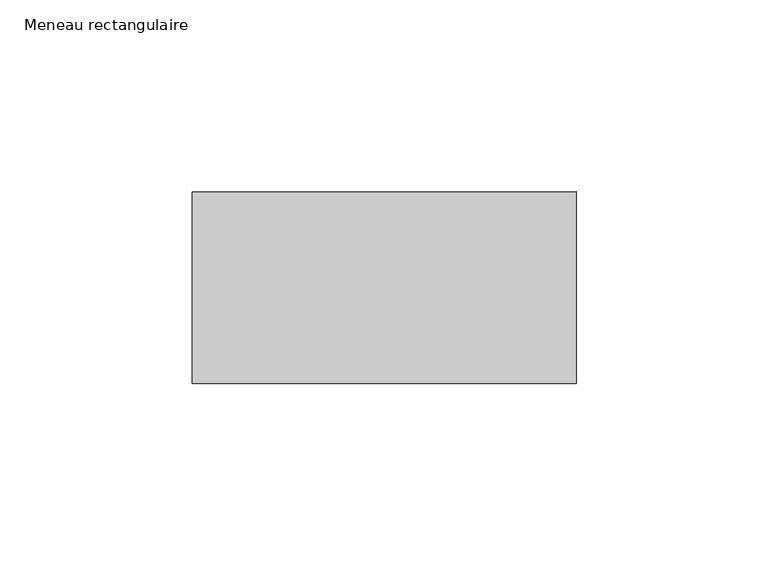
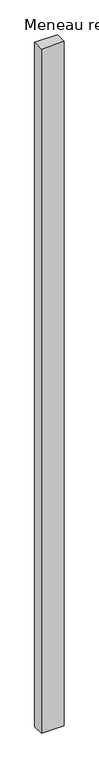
"""IFC4 building model written with IfcOpenShell, lengths in millimetres: member geometry, Meneau rectangulaire : 10x5cm aluminium laqué gris."""

from ifc_helpers import new_model, si_unit, frame, origin, place, context, project, spatial, polyline, outline, extrude, source, transform, mapped, element, save


def meneau_rectangulaire_87f1da10(model_context):
    return source(origin(), model_context, "Body", "SweptSolid", [
        extrude(outline(polyline([(0.0, 25.0), (0.0, -25.0), (-100.0, -25.0), (-100.0, 25.0), (0.0, 25.0)])), frame((0.0, 0.0, -3155.2096551), z_axis=(0.0, 0.0, 1.0), x_axis=(1.0, 0.0, 0.0)), (0.0, 0.0, 1.0), 3155.2096551),
    ])


if __name__ == "__main__":
    model = new_model("IFC4")
    model_context = context("Model", 3, world=origin())
    ifc_project = project(units=[si_unit("LENGTHUNIT", "METRE", prefix="MILLI")], contexts=[model_context])
    site = spatial("IfcSite", under=ifc_project)
    building = spatial("IfcBuilding", under=site)
    placement = place(None, origin())
    meneau_rectangulaire_shape = meneau_rectangulaire_87f1da10(model_context)
    element("IfcMember", 1, ObjectType="Meneau rectangulaire : 10x5cm aluminium laqué gris", at=placement, inside=building, context=model_context, shape_type="MappedRepresentation", body=[
        mapped(meneau_rectangulaire_shape, transform((0.0, 0.0, 0.0), x_axis=(1.0, 0.0, 0.0), y_axis=(0.0, 1.0, 0.0), z_axis=(0.0, 0.0, 1.0))),
    ])
    save(model, "model.ifc")
